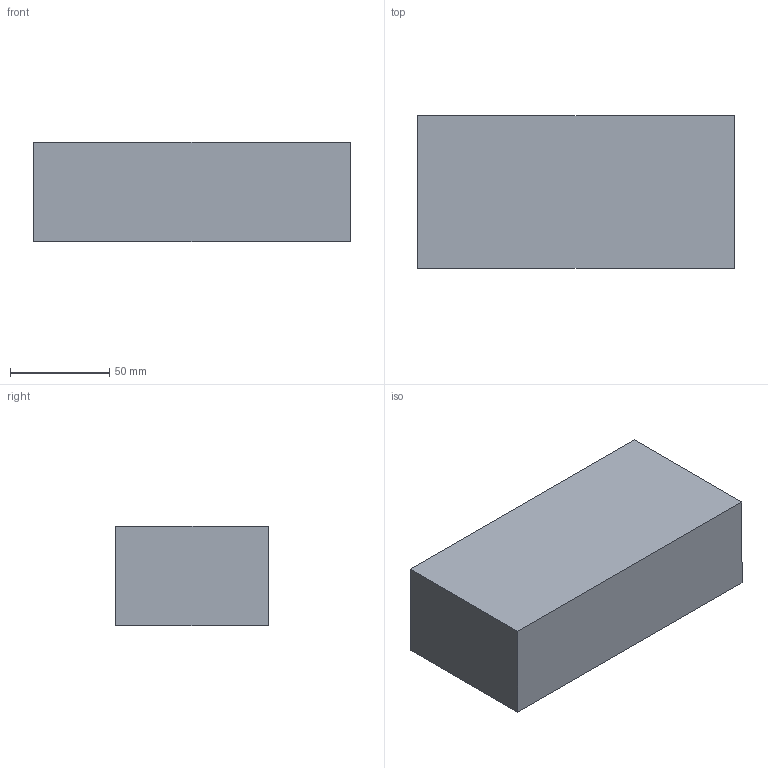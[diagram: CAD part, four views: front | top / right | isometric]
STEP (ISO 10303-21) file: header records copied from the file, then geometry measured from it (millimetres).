
FILE_DESCRIPTION(/* description */ (''),/* implementation_level */ '2;1');
FILE_NAME(/* name */ 'C:/Users/admin/Desktop/heart 5x6 v6.step',/* time_stamp */ '2020-10-19T16:04:10+06:00',/* author */ (''),/* organization */ (''),/* preprocessor_version */ 'ST-DEVELOPER v18.1',/* originating_system */ 'Autodesk Translation Framework v9.3.0.1241',/* authorisation */ '');
FILE_SCHEMA (('AUTOMOTIVE_DESIGN { 1 0 10303 214 3 1 1 }'));
Length unit declared in the file: millimetre
Products named in the file (4): heart 5x6; Component1; Component2; Component3
Assembly tree (3 placements, depth 3):
  heart 5x6
    Component1
    Component2
      Component3
Bounding box: 160 x 77 x 50 mm (x, y, z)
Volume: 436201 mm3; surface area: 65659 mm2
Topology: 1 solids, 1 shells, 48 faces, 124 edges, 84 vertices
Faces by surface type: plane 24, bspline 18, cylinder 4, torus 2
Full cylindrical faces by diameter (mm): 6 x2
Entity records: 11482 total; most frequent: CARTESIAN_POINT 10335, ORIENTED_EDGE 248, DIRECTION 172, EDGE_CURVE 124, VERTEX_POINT 84, AXIS2_PLACEMENT_3D 61, EDGE_LOOP 54, B_SPLINE_CURVE_WITH_KNOTS 50
